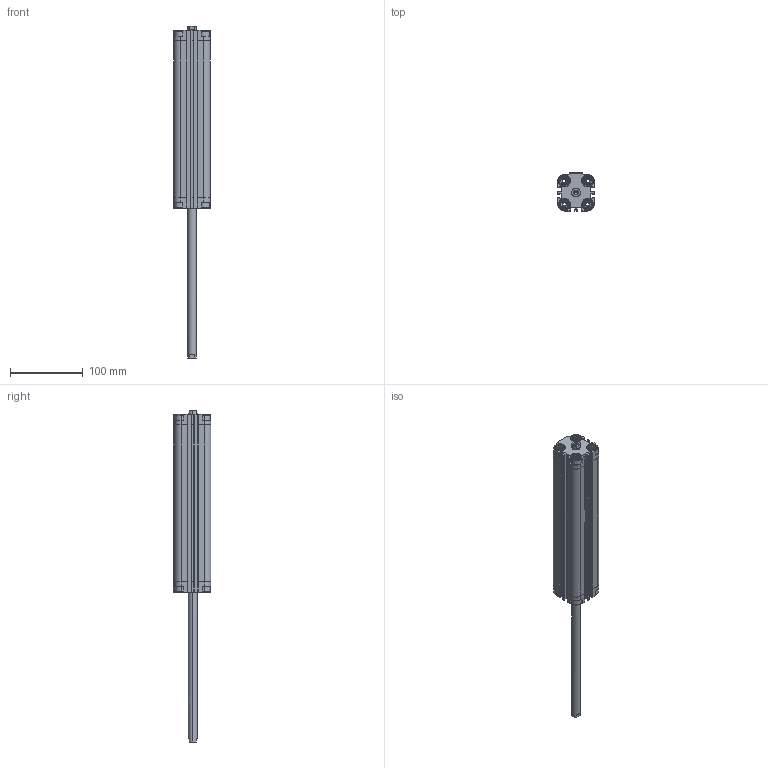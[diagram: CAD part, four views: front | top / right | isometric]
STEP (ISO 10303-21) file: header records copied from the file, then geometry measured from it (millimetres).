
FILE_DESCRIPTION (( 'STEP AP203' ), '1' );
FILE_NAME ('CDVU32-200F-P.STEP', '2020-07-24T18:14:28', ( '' ), ( '' ), 'SwSTEP 2.0', 'SolidWorks 2019', '' );
FILE_SCHEMA (( 'CONFIG_CONTROL_DESIGN' ));
Length unit declared in the file: millimetre
Products named in the file (1): CDVU32-200F-P
Bounding box: 50 x 52 x 456.5 mm (x, y, z)
Volume: 386160.9 mm3; surface area: 139697.5 mm2
Topology: 2 solids, 2 shells, 722 faces, 1928 edges, 1244 vertices
Faces by surface type: plane 422, cylinder 236, cone 64
Entity records: 22623 total; most frequent: CARTESIAN_POINT 4463, ORIENTED_EDGE 3840, DIRECTION 3710, EDGE_CURVE 1920, AXIS2_PLACEMENT_3D 1259, VERTEX_POINT 1244, LINE 1192, VECTOR 1192
